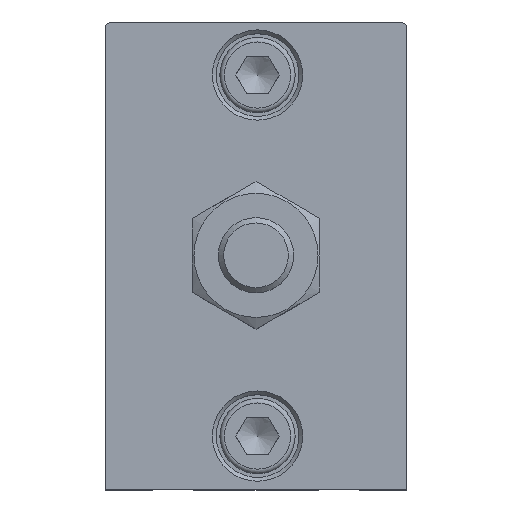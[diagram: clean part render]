
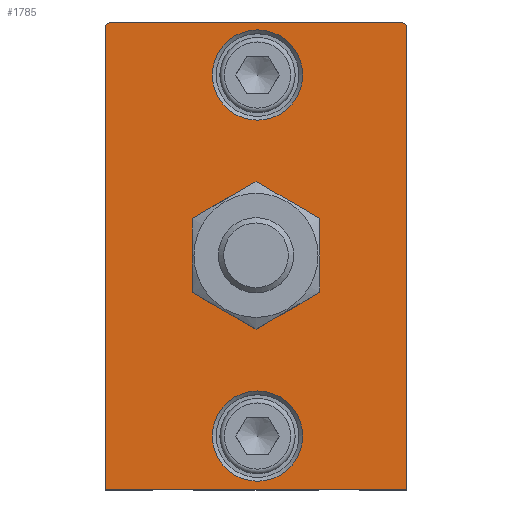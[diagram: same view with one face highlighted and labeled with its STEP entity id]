
A CAD part, top view. The second image highlights one B-rep face of the part: STEP entity #1785.
In plain terms, the highlighted planar face has unit normal (0, 0, 1).
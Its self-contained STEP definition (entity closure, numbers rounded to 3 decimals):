
#1446=CARTESIAN_POINT('',(28.017,30.55,16.0));
#1447=VERTEX_POINT('',#1446);
#1456=CARTESIAN_POINT('',(28.017,-31.05,16.0));
#1457=VERTEX_POINT('',#1456);
#1458=CARTESIAN_POINT('',(28.017,30.55,16.0));
#1459=DIRECTION('',(0.0,-1.0,0.0));
#1460=VECTOR('',#1459,61.6);
#1461=LINE('',#1458,#1460);
#1462=EDGE_CURVE('',#1447,#1457,#1461,.T.);
#1541=CARTESIAN_POINT('',(-11.983,30.55,16.0));
#1542=VERTEX_POINT('',#1541);
#1543=CARTESIAN_POINT('',(-11.483,31.05,16.0));
#1544=VERTEX_POINT('',#1543);
#1545=CARTESIAN_POINT('',(-11.983,30.55,16.0));
#1546=DIRECTION('',(0.707,0.707,0.0));
#1547=VECTOR('',#1546,0.707);
#1548=LINE('',#1545,#1547);
#1549=EDGE_CURVE('',#1542,#1544,#1548,.T.);
#1645=CARTESIAN_POINT('',(27.517,31.05,16.0));
#1646=VERTEX_POINT('',#1645);
#1647=CARTESIAN_POINT('',(-11.483,31.05,16.0));
#1648=DIRECTION('',(1.0,0.0,0.0));
#1649=VECTOR('',#1648,39.0);
#1650=LINE('',#1647,#1649);
#1651=EDGE_CURVE('',#1544,#1646,#1650,.T.);
#1663=CARTESIAN_POINT('',(8.017,0.,16.0));
#1664=DIRECTION('',(0.0,0.0,1.0));
#1665=DIRECTION('',(1.0,0.0,0.0));
#1666=AXIS2_PLACEMENT_3D('',#1663,#1664,#1665);
#1667=PLANE('',#1666);
#1668=ORIENTED_EDGE('',*,*,#1549,.F.);
#1669=CARTESIAN_POINT('',(-11.983,-31.05,16.0));
#1670=VERTEX_POINT('',#1669);
#1671=CARTESIAN_POINT('',(-11.983,-31.05,16.0));
#1672=DIRECTION('',(0.0,1.0,0.0));
#1673=VECTOR('',#1672,61.6);
#1674=LINE('',#1671,#1673);
#1675=EDGE_CURVE('',#1670,#1542,#1674,.T.);
#1676=ORIENTED_EDGE('',*,*,#1675,.F.);
#1677=CARTESIAN_POINT('',(28.017,-31.05,16.0));
#1678=DIRECTION('',(-1.0,0.0,0.0));
#1679=VECTOR('',#1678,40.0);
#1680=LINE('',#1677,#1679);
#1681=EDGE_CURVE('',#1457,#1670,#1680,.T.);
#1682=ORIENTED_EDGE('',*,*,#1681,.F.);
#1683=ORIENTED_EDGE('',*,*,#1462,.F.);
#1684=CARTESIAN_POINT('',(27.517,31.05,16.0));
#1685=DIRECTION('',(0.707,-0.707,0.0));
#1686=VECTOR('',#1685,0.707);
#1687=LINE('',#1684,#1686);
#1688=EDGE_CURVE('',#1646,#1447,#1687,.T.);
#1689=ORIENTED_EDGE('',*,*,#1688,.F.);
#1690=ORIENTED_EDGE('',*,*,#1651,.F.);
#1691=EDGE_LOOP('',(#1668,#1676,#1682,#1683,#1689,#1690));
#1692=FACE_OUTER_BOUND('',#1691,.T.);
#1693=CARTESIAN_POINT('',(14.217,-24.,16.0));
#1694=VERTEX_POINT('',#1693);
#1695=CARTESIAN_POINT('',(8.217,-24.,16.0));
#1696=DIRECTION('',(0.0,0.0,1.0));
#1697=DIRECTION('',(-1.0,0.0,0.0));
#1698=AXIS2_PLACEMENT_3D('',#1695,#1696,#1697);
#1699=CIRCLE('',#1698,6.);
#1700=EDGE_CURVE('',#1694,#1694,#1699,.T.);
#1701=ORIENTED_EDGE('',*,*,#1700,.F.);
#1702=EDGE_LOOP('',(#1701));
#1703=FACE_BOUND('',#1702,.T.);
#1704=CARTESIAN_POINT('',(10.415,5.5,16.0));
#1705=VERTEX_POINT('',#1704);
#1706=CARTESIAN_POINT('',(13.517,2.398,16.0));
#1707=VERTEX_POINT('',#1706);
#1708=CARTESIAN_POINT('',(8.017,0.0,16.0));
#1709=DIRECTION('',(0.0,0.0,-1.0));
#1710=DIRECTION('',(0.0,1.0,0.0));
#1711=AXIS2_PLACEMENT_3D('',#1708,#1709,#1710);
#1712=CIRCLE('',#1711,6.);
#1713=EDGE_CURVE('',#1705,#1707,#1712,.T.);
#1714=ORIENTED_EDGE('',*,*,#1713,.T.);
#1715=CARTESIAN_POINT('',(13.517,-2.398,16.0));
#1716=VERTEX_POINT('',#1715);
#1717=CARTESIAN_POINT('',(13.517,-2.398,16.0));
#1718=DIRECTION('',(0.0,1.0,0.0));
#1719=VECTOR('',#1718,4.796);
#1720=LINE('',#1717,#1719);
#1721=EDGE_CURVE('',#1716,#1707,#1720,.T.);
#1722=ORIENTED_EDGE('',*,*,#1721,.F.);
#1723=CARTESIAN_POINT('',(10.415,-5.5,16.0));
#1724=VERTEX_POINT('',#1723);
#1725=CARTESIAN_POINT('',(8.017,0.0,16.0));
#1726=DIRECTION('',(0.0,0.0,-1.0));
#1727=DIRECTION('',(0.0,1.0,0.0));
#1728=AXIS2_PLACEMENT_3D('',#1725,#1726,#1727);
#1729=CIRCLE('',#1728,6.);
#1730=EDGE_CURVE('',#1716,#1724,#1729,.T.);
#1731=ORIENTED_EDGE('',*,*,#1730,.T.);
#1732=CARTESIAN_POINT('',(5.619,-5.5,16.0));
#1733=VERTEX_POINT('',#1732);
#1734=CARTESIAN_POINT('',(5.619,-5.5,16.0));
#1735=DIRECTION('',(1.0,0.0,0.0));
#1736=VECTOR('',#1735,4.796);
#1737=LINE('',#1734,#1736);
#1738=EDGE_CURVE('',#1733,#1724,#1737,.T.);
#1739=ORIENTED_EDGE('',*,*,#1738,.F.);
#1740=CARTESIAN_POINT('',(2.517,-2.398,16.0));
#1741=VERTEX_POINT('',#1740);
#1742=CARTESIAN_POINT('',(8.017,0.0,16.0));
#1743=DIRECTION('',(0.0,0.0,-1.0));
#1744=DIRECTION('',(0.0,1.0,0.0));
#1745=AXIS2_PLACEMENT_3D('',#1742,#1743,#1744);
#1746=CIRCLE('',#1745,6.);
#1747=EDGE_CURVE('',#1733,#1741,#1746,.T.);
#1748=ORIENTED_EDGE('',*,*,#1747,.T.);
#1749=CARTESIAN_POINT('',(2.517,2.398,16.0));
#1750=VERTEX_POINT('',#1749);
#1751=CARTESIAN_POINT('',(2.517,2.398,16.0));
#1752=DIRECTION('',(0.0,-1.0,0.0));
#1753=VECTOR('',#1752,4.796);
#1754=LINE('',#1751,#1753);
#1755=EDGE_CURVE('',#1750,#1741,#1754,.T.);
#1756=ORIENTED_EDGE('',*,*,#1755,.F.);
#1757=CARTESIAN_POINT('',(5.619,5.5,16.0));
#1758=VERTEX_POINT('',#1757);
#1759=CARTESIAN_POINT('',(8.017,0.0,16.0));
#1760=DIRECTION('',(0.0,0.0,-1.0));
#1761=DIRECTION('',(0.0,1.0,0.0));
#1762=AXIS2_PLACEMENT_3D('',#1759,#1760,#1761);
#1763=CIRCLE('',#1762,6.);
#1764=EDGE_CURVE('',#1750,#1758,#1763,.T.);
#1765=ORIENTED_EDGE('',*,*,#1764,.T.);
#1766=CARTESIAN_POINT('',(10.415,5.5,16.0));
#1767=DIRECTION('',(-1.0,0.0,0.0));
#1768=VECTOR('',#1767,4.796);
#1769=LINE('',#1766,#1768);
#1770=EDGE_CURVE('',#1705,#1758,#1769,.T.);
#1771=ORIENTED_EDGE('',*,*,#1770,.F.);
#1772=EDGE_LOOP('',(#1714,#1722,#1731,#1739,#1748,#1756,#1765,#1771));
#1773=FACE_BOUND('',#1772,.T.);
#1774=CARTESIAN_POINT('',(14.217,24.,16.0));
#1775=VERTEX_POINT('',#1774);
#1776=CARTESIAN_POINT('',(8.217,24.,16.0));
#1777=DIRECTION('',(0.0,0.0,1.0));
#1778=DIRECTION('',(-1.0,0.0,0.0));
#1779=AXIS2_PLACEMENT_3D('',#1776,#1777,#1778);
#1780=CIRCLE('',#1779,6.);
#1781=EDGE_CURVE('',#1775,#1775,#1780,.T.);
#1782=ORIENTED_EDGE('',*,*,#1781,.F.);
#1783=EDGE_LOOP('',(#1782));
#1784=FACE_BOUND('',#1783,.T.);
#1785=ADVANCED_FACE('',(#1692,#1703,#1773,#1784),#1667,.T.);
